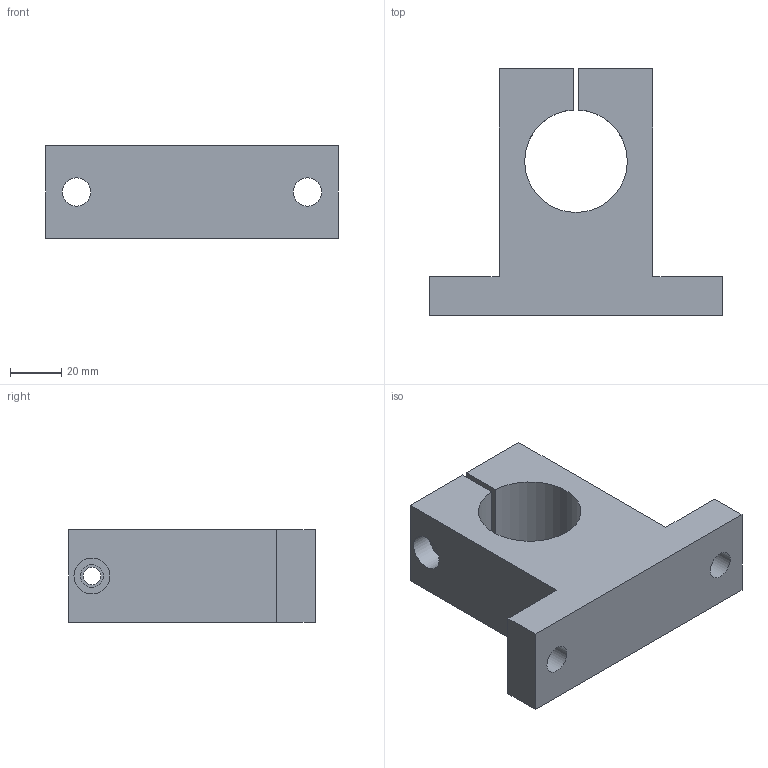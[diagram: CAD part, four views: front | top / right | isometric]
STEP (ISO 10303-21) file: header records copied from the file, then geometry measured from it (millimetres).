
FILE_DESCRIPTION(/* description */ ('Unknown'),/* implementation_level */ '2;1');
FILE_NAME(/* name */ 'SK40',/* time_stamp */ '2025-02-04T09:07:06+08:00',/* author */ ('Unknown'),/* organization */ ('Unknown'),/* preprocessor_version */ 'ST-DEVELOPER v18.102',/* originating_system */ 'Solid Edge',/* authorisation */ 'Unknown');
FILE_SCHEMA (('AUTOMOTIVE_DESIGN {1 0 10303 214 3 1 1}'));
Length unit declared in the file: millimetre
Products named in the file (1): SK40
Bounding box: 114 x 96 x 36 mm (x, y, z)
Volume: 183611.7 mm3; surface area: 33246.1 mm2
Topology: 1 solids, 1 shells, 20 faces, 52 edges, 35 vertices
Faces by surface type: plane 14, cylinder 6
Full cylindrical faces by diameter (mm): 6.8 x1, 9 x1, 11 x2, 14 x1
Entity records: 628 total; most frequent: CARTESIAN_POINT 101, DIRECTION 100, ORIENTED_EDGE 92, EDGE_CURVE 46, VERTEX_POINT 34, LINE 34, VECTOR 34, EDGE_LOOP 34
